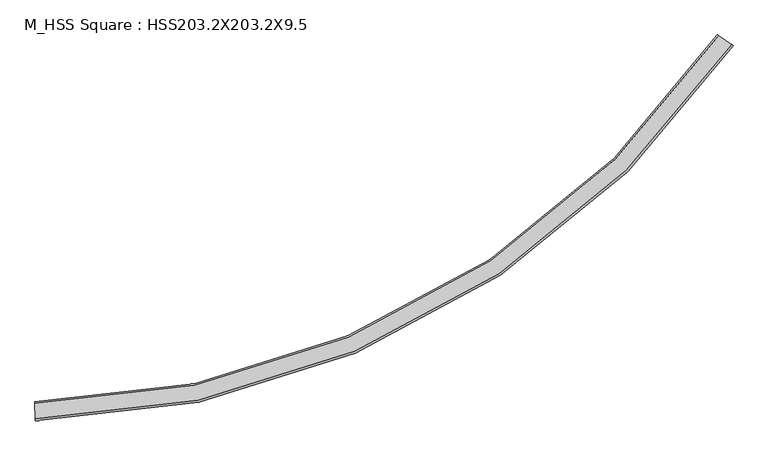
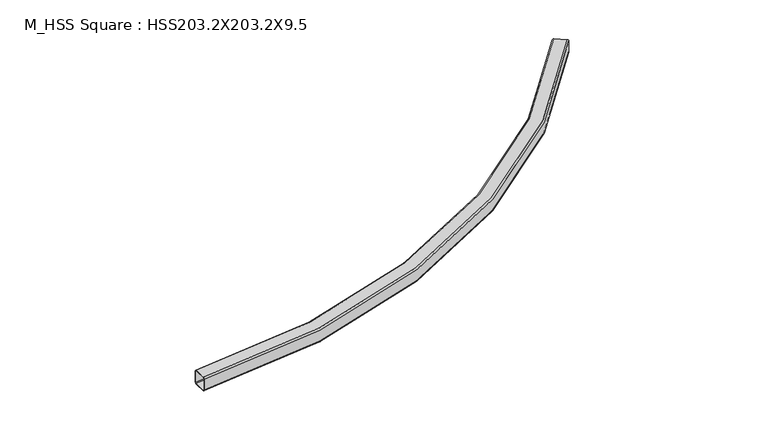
"""IFC4 building model written with IfcOpenShell, lengths in millimetres: beam geometry, M_HSS Square : HSS203.2X203.2X9.5."""

from ifc_helpers import new_model, si_unit, point, frame, origin, place, context, project, spatial, polyline, circle_curve, ellipse_curve, trimmed, source, transform, mapped, element, save
from ifc_brep_helpers import plane_surface, cylinder_surface, revolved_surface, advanced_brep


def m_hss_square_hss203_2x203_2x9_5_0e3d8e6e(model_context):
    return source(origin(), model_context, "Body", "AdvancedBrep", [
        advanced_brep(
        [(167.2261343, -99.9876354, 82.44), (166.8814117, -80.9307531, 101.5), (163.8993626, 83.9222778, 101.5), (163.5546401, 102.9791602, 82.44), (163.5546401, 102.9791602, -82.44), (163.8993626, 83.9222778, -101.5), (166.8814117, -80.9307531, -101.5), (167.2261343, -99.9876354, -82.44), (163.8993626, 83.9222778, 91.97), (166.8814117, -80.9307531, 91.97), (167.053773, -90.4591943, 82.44), (167.053773, -90.4591943, -82.44), (166.8814117, -80.9307531, -91.97), (163.8993626, 83.9222778, -91.97), (163.7270013, 93.450719, -82.44), (163.7270013, 93.450719, 82.44), (7617.1849213, 3903.5461216, 82.44), (7617.1849213, 3903.5461216, -82.44), (7601.4827374, 3914.350057, -101.5), (7465.6497843, 4007.8103333, -101.5), (7449.9476004, 4018.6142687, -82.44), (7449.9476004, 4018.6142687, 82.44), (7465.6497843, 4007.8103333, 101.5), (7601.4827374, 3914.350057, 101.5), (7465.6497843, 4007.8103333, 91.97), (7457.7986923, 4013.212301, 82.44), (7457.7986923, 4013.212301, -82.44), (7465.6497843, 4007.8103333, -91.97), (7601.4827374, 3914.350057, -91.97), (7609.3338293, 3908.9480893, -82.44), (7609.3338293, 3908.9480893, 82.44), (7601.4827374, 3914.350057, 91.97)],
        [
            (0, 1, circle_curve(frame((166.8814117, -80.9307531, 82.44), z_axis=(-0.999836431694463, -0.018086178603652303, 0.0), x_axis=(-0.018086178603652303, 0.999836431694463, 0.0)), 19.06)),
            (1, 2),
            (2, 3, circle_curve(frame((163.8993626, 83.9222778, 82.44), z_axis=(-0.999836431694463, -0.018086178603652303, 0.0), x_axis=(-0.018086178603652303, 0.999836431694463, 0.0)), 19.06)),
            (3, 4),
            (4, 5, circle_curve(frame((163.8993626, 83.9222778, -82.44), z_axis=(-0.999836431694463, -0.018086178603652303, 0.0), x_axis=(-0.018086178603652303, 0.999836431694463, 0.0)), 19.06)),
            (5, 6),
            (6, 7, circle_curve(frame((166.8814117, -80.9307531, -82.44), z_axis=(-0.999836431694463, -0.018086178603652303, 0.0), x_axis=(-0.018086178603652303, 0.999836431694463, 0.0)), 19.06)),
            (7, 0),
            (8, 9),
            (9, 10, circle_curve(frame((166.8814117, -80.9307531, 82.44), z_axis=(0.999836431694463, 0.018086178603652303, 0.0), x_axis=(-0.018086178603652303, 0.999836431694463, 0.0)), 9.53)),
            (10, 11),
            (11, 12, circle_curve(frame((166.8814117, -80.9307531, -82.44), z_axis=(0.999836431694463, 0.018086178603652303, 0.0), x_axis=(-0.018086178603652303, 0.999836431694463, 0.0)), 9.53)),
            (12, 13),
            (13, 14, circle_curve(frame((163.8993626, 83.9222778, -82.44), z_axis=(0.999836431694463, 0.018086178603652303, 0.0), x_axis=(-0.018086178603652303, 0.999836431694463, 0.0)), 9.53)),
            (14, 15),
            (15, 8, circle_curve(frame((163.8993626, 83.9222778, 82.44), z_axis=(0.999836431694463, 0.018086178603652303, 0.0), x_axis=(-0.018086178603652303, 0.999836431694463, 0.0)), 9.53)),
            (16, 17),
            (17, 18, circle_curve(frame((7601.4827374, 3914.350057, -82.44), z_axis=(0.566838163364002, 0.8238291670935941, 0.0), x_axis=(-0.8238291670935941, 0.566838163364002, 0.0)), 19.06)),
            (18, 19),
            (19, 20, circle_curve(frame((7465.6497843, 4007.8103333, -82.44), z_axis=(0.566838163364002, 0.8238291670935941, 0.0), x_axis=(-0.8238291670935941, 0.566838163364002, 0.0)), 19.06)),
            (20, 21),
            (21, 22, circle_curve(frame((7465.6497843, 4007.8103333, 82.44), z_axis=(0.566838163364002, 0.8238291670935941, 0.0), x_axis=(-0.8238291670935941, 0.566838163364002, 0.0)), 19.06)),
            (22, 23),
            (23, 16, circle_curve(frame((7601.4827374, 3914.350057, 82.44), z_axis=(0.566838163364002, 0.8238291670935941, 0.0), x_axis=(-0.8238291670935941, 0.566838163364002, 0.0)), 19.06)),
            (24, 25, circle_curve(frame((7465.6497843, 4007.8103333, 82.44), z_axis=(-0.566838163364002, -0.8238291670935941, 0.0), x_axis=(-0.8238291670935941, 0.566838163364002, 0.0)), 9.53)),
            (25, 26),
            (26, 27, circle_curve(frame((7465.6497843, 4007.8103333, -82.44), z_axis=(-0.566838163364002, -0.8238291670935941, 0.0), x_axis=(-0.8238291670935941, 0.566838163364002, 0.0)), 9.53)),
            (27, 28),
            (28, 29, circle_curve(frame((7601.4827374, 3914.350057, -82.44), z_axis=(-0.566838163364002, -0.8238291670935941, 0.0), x_axis=(-0.8238291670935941, 0.566838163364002, 0.0)), 9.53)),
            (29, 30),
            (30, 31, circle_curve(frame((7601.4827374, 3914.350057, 82.44), z_axis=(-0.566838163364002, -0.8238291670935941, 0.0), x_axis=(-0.8238291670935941, 0.566838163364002, 0.0)), 9.53)),
            (31, 24),
            (0, 16, circle_curve(frame((0.0, 9144.5733676, 82.44), z_axis=(0.0, 0.0, 1.0), x_axis=(0.8332810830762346, -0.5528495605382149, 0.0)), 9246.0733676)),
            (23, 1, circle_curve(frame((0.0, 9144.5733676, 101.5), z_axis=(0.0, 0.0, -1.0), x_axis=(0.8332810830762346, -0.5528495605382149, 0.0)), 9227.0133676)),
            (22, 2, circle_curve(frame((0.0, 9144.5733676, 101.5), z_axis=(0.0, 0.0, -1.0), x_axis=(0.8332810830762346, -0.5528495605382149, 0.0)), 9062.1333676)),
            (21, 3, circle_curve(frame((0.0, 9144.5733676, 82.44), z_axis=(0.0, 0.0, -1.0), x_axis=(0.8332810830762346, -0.5528495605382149, 0.0)), 9043.0733676)),
            (20, 4, circle_curve(frame((0.0, 9144.5733676, -82.44), z_axis=(0.0, 0.0, -1.0), x_axis=(0.8332810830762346, -0.5528495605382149, 0.0)), 9043.0733676)),
            (19, 5, circle_curve(frame((0.0, 9144.5733676, -101.5), z_axis=(0.0, 0.0, -1.0), x_axis=(0.8332810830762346, -0.5528495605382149, 0.0)), 9062.1333676)),
            (18, 6, circle_curve(frame((0.0, 9144.5733676, -101.5), z_axis=(0.0, 0.0, -1.0), x_axis=(0.8332810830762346, -0.5528495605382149, 0.0)), 9227.0133676)),
            (17, 7, circle_curve(frame((0.0, 9144.5733676, -82.44), z_axis=(0.0, 0.0, -1.0), x_axis=(0.8332810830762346, -0.5528495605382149, 0.0)), 9246.0733676)),
            (8, 24, circle_curve(frame((0.0, 9144.5733676, 91.97), z_axis=(0.0, 0.0, 1.0), x_axis=(0.8332810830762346, -0.5528495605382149, 0.0)), 9062.1333676)),
            (31, 9, circle_curve(frame((0.0, 9144.5733676, 91.97), z_axis=(0.0, 0.0, -1.0), x_axis=(0.8332810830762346, -0.5528495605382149, 0.0)), 9227.0133676)),
            (30, 10, circle_curve(frame((0.0, 9144.5733676, 82.44), z_axis=(0.0, 0.0, -1.0), x_axis=(0.8332810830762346, -0.5528495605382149, 0.0)), 9236.5433676)),
            (29, 11, circle_curve(frame((0.0, 9144.5733676, -82.44), z_axis=(0.0, 0.0, -1.0), x_axis=(0.8332810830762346, -0.5528495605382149, 0.0)), 9236.5433676)),
            (28, 12, circle_curve(frame((0.0, 9144.5733676, -91.97), z_axis=(0.0, 0.0, -1.0), x_axis=(0.8332810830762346, -0.5528495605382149, 0.0)), 9227.0133676)),
            (27, 13, circle_curve(frame((0.0, 9144.5733676, -91.97), z_axis=(0.0, 0.0, -1.0), x_axis=(0.8332810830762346, -0.5528495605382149, 0.0)), 9062.1333676)),
            (26, 14, circle_curve(frame((0.0, 9144.5733676, -82.44), z_axis=(0.0, 0.0, -1.0), x_axis=(0.8332810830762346, -0.5528495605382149, 0.0)), 9052.6033676)),
            (25, 15, circle_curve(frame((0.0, 9144.5733676, 82.44), z_axis=(0.0, 0.0, -1.0), x_axis=(0.8332810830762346, -0.5528495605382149, 0.0)), 9052.6033676)),
        ],
        [
            plane_surface(frame((165.3903872, 1.4957624, 0.0), z_axis=(-0.999836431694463, -0.01808617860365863, 0.0), x_axis=(0.0, 0.0, 1.0))),
            plane_surface(frame((7533.5662608, 3961.0801951, 0.0), z_axis=(0.5668381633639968, 0.8238291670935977, 0.0), x_axis=(0.0, 0.0, 1.0))),
            revolved_surface(trimmed(ellipse_curve(frame((7688.6956925, 4043.4230822, 82.44), z_axis=(-0.552849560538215, -0.8332810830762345, 0.0), x_axis=(-0.8332810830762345, 0.552849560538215, 0.0)), 19.06, 19.06), [point((7704.5780299, 4032.8857696, 82.44))], [point((7688.6956925, 4043.4230822, 101.5))], True, "CARTESIAN"), (0.0, 9144.5733676, 0.0), (0.0, 0.0, 1.0)),
            plane_surface(frame((0.0, 9144.5733676, 101.5), z_axis=(0.0, 0.0, 1.0), x_axis=(0.8332810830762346, -0.5528495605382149, 0.0))),
            revolved_surface(trimmed(ellipse_curve(frame((7551.3043075, 4134.5769178, 82.44), z_axis=(-0.552849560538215, -0.8332810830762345, 0.0), x_axis=(-0.8332810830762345, 0.552849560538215, 0.0)), 19.06, 19.06), [point((7551.3043075, 4134.5769178, 101.5))], [point((7535.4219701, 4145.1142304, 82.44))], True, "CARTESIAN"), (0.0, 9144.5733676, 0.0), (0.0, 0.0, 1.0)),
            revolved_surface(polyline([(7535.42197009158, 4145.114230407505, 82.44), (7535.42197009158, 4145.114230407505, -82.44)]), (0.0, 9144.5733676, 0.0), (0.0, 0.0, 1.0)),
            revolved_surface(trimmed(ellipse_curve(frame((7551.3043075, 4134.5769178, -82.44), z_axis=(-0.552849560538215, -0.8332810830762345, 0.0), x_axis=(-0.8332810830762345, 0.552849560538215, 0.0)), 19.06, 19.06), [point((7535.4219701, 4145.1142304, -82.44))], [point((7551.3043075, 4134.5769178, -101.5))], True, "CARTESIAN"), (0.0, 9144.5733676, 0.0), (0.0, 0.0, 1.0)),
            plane_surface(frame((0.0, 9144.5733676, -101.5), z_axis=(0.0, 0.0, -1.0), x_axis=(0.8332810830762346, -0.5528495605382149, 0.0))),
            revolved_surface(trimmed(ellipse_curve(frame((7688.6956925, 4043.4230822, -82.44), z_axis=(-0.552849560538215, -0.8332810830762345, 0.0), x_axis=(-0.8332810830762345, 0.552849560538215, 0.0)), 19.06, 19.06), [point((7688.6956925, 4043.4230822, -101.5))], [point((7704.5780299, 4032.8857696, -82.44))], True, "CARTESIAN"), (0.0, 9144.5733676, 0.0), (0.0, 0.0, 1.0)),
            cylinder_surface(frame((0.0, 9144.5733676, 0.0), z_axis=(0.0, 0.0, 1.0), x_axis=(0.8332810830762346, -0.5528495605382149, 0.0)), 9246.0733676),
            plane_surface(frame((0.0, 9144.5733676, 91.97), z_axis=(0.0, 0.0, -1.0), x_axis=(0.8332810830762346, -0.5528495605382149, 0.0))),
            revolved_surface(trimmed(ellipse_curve(frame((7688.6956925, 4043.4230822, 82.44), z_axis=(0.552849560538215, 0.8332810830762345, 0.0), x_axis=(-0.8332810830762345, 0.552849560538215, 0.0)), 9.53, 9.53), [point((7688.6956925, 4043.4230822, 91.97))], [point((7696.6368612, 4038.1544259, 82.44))], True, "CARTESIAN"), (0.0, 9144.5733676, 0.0), (0.0, 0.0, 1.0)),
            revolved_surface(polyline([(7696.6368612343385, 4038.1544259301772, 82.44), (7696.6368612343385, 4038.1544259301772, -82.44)]), (0.0, 9144.5733676, 0.0), (0.0, 0.0, 1.0)),
            revolved_surface(trimmed(ellipse_curve(frame((7688.6956925, 4043.4230822, -82.44), z_axis=(0.552849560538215, 0.8332810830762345, 0.0), x_axis=(-0.8332810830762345, 0.552849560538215, 0.0)), 9.53, 9.53), [point((7696.6368612, 4038.1544259, -82.44))], [point((7688.6956925, 4043.4230822, -91.97))], True, "CARTESIAN"), (0.0, 9144.5733676, 0.0), (0.0, 0.0, 1.0)),
            plane_surface(frame((0.0, 9144.5733676, -91.97), z_axis=(0.0, 0.0, 1.0), x_axis=(0.8332810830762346, -0.5528495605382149, 0.0))),
            revolved_surface(trimmed(ellipse_curve(frame((7551.3043075, 4134.5769178, -82.44), z_axis=(0.552849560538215, 0.8332810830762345, 0.0), x_axis=(-0.8332810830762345, 0.552849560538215, 0.0)), 9.53, 9.53), [point((7551.3043075, 4134.5769178, -91.97))], [point((7543.3631388, 4139.8455741, -82.44))], True, "CARTESIAN"), (0.0, 9144.5733676, 0.0), (0.0, 0.0, 1.0)),
            cylinder_surface(frame((0.0, 9144.5733676, 0.0), z_axis=(0.0, 0.0, 1.0), x_axis=(0.8332810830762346, -0.5528495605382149, 0.0)), 9052.6033676),
            revolved_surface(trimmed(ellipse_curve(frame((7551.3043075, 4134.5769178, 82.44), z_axis=(0.552849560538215, 0.8332810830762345, 0.0), x_axis=(-0.8332810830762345, 0.552849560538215, 0.0)), 9.53, 9.53), [point((7543.3631388, 4139.8455741, 82.44))], [point((7551.3043075, 4134.5769178, 91.97))], True, "CARTESIAN"), (0.0, 9144.5733676, 0.0), (0.0, 0.0, 1.0)),
        ],
        [
            (0, [[1, 2, 3, 4, 5, 6, 7, 8], [9, 10, 11, 12, 13, 14, 15, 16]]),
            (1, [[17, 18, 19, 20, 21, 22, 23, 24], [25, 26, 27, 28, 29, 30, 31, 32]]),
            (2, [[-1, 33, -24, 34]]),
            (3, [[-2, -34, -23, 35]]),
            (4, [[-3, -35, -22, 36]]),
            (5, [[-4, -36, -21, 37]]),
            (6, [[-5, -37, -20, 38]]),
            (7, [[-6, -38, -19, 39]]),
            (8, [[-7, -39, -18, 40]]),
            (9, [[-8, -40, -17, -33]]),
            (10, [[-9, 41, -32, 42]]),
            (11, [[-10, -42, -31, 43]]),
            (12, [[-11, -43, -30, 44]]),
            (13, [[-12, -44, -29, 45]]),
            (14, [[-13, -45, -28, 46]]),
            (15, [[-14, -46, -27, 47]]),
            (16, [[-15, -47, -26, 48]]),
            (17, [[-16, -48, -25, -41]]),
        ],
    ),
    ])


if __name__ == "__main__":
    model = new_model("IFC4")
    model_context = context("Model", 3, world=origin())
    ifc_project = project(units=[si_unit("LENGTHUNIT", "METRE", prefix="MILLI")], contexts=[model_context])
    site = spatial("IfcSite", under=ifc_project)
    building = spatial("IfcBuilding", under=site)
    placement = place(None, origin())
    m_hss_square_hss203_2x203_2x9_5_shape = m_hss_square_hss203_2x203_2x9_5_0e3d8e6e(model_context)
    element("IfcBeam", 1, ObjectType="M_HSS Square : HSS203.2X203.2X9.5", at=placement, inside=building, context=model_context, shape_type="MappedRepresentation", body=[
        mapped(m_hss_square_hss203_2x203_2x9_5_shape, transform((0.0, 0.0, 0.0), x_axis=(1.0, 0.0, 0.0), y_axis=(0.0, 1.0, 0.0), z_axis=(0.0, 0.0, 1.0))),
    ])
    save(model, "model.ifc")
